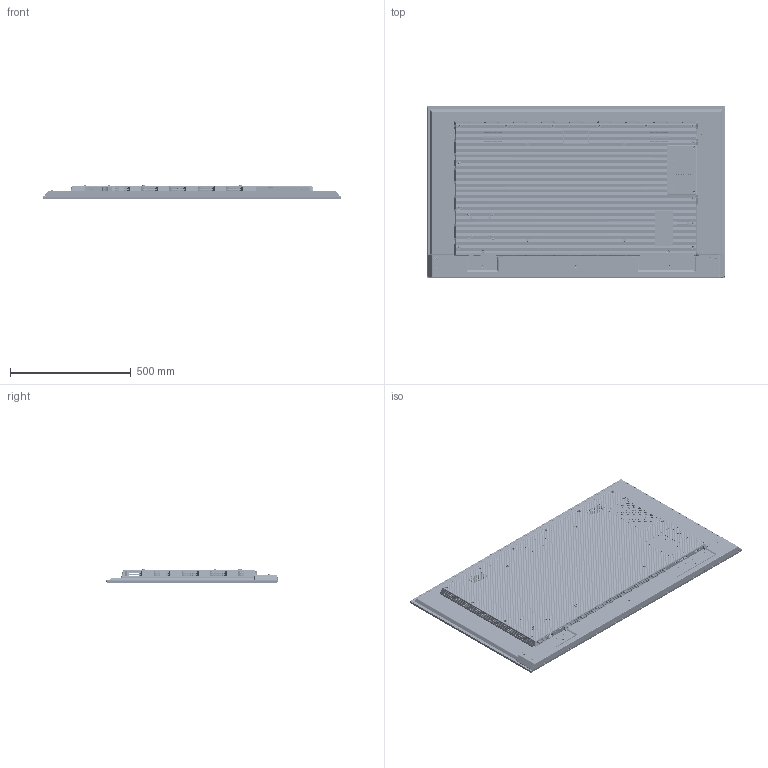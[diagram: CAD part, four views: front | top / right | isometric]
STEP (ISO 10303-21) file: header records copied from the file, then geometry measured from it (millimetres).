
FILE_DESCRIPTION(/* description */ (''),/* implementation_level */ '2;1');
FILE_NAME(/* name */ '00-55U_total_asm_75XL-1207.stp',/* time_stamp */ '2023-12-07T11:17:37+08:00',/* author */ (''),/* organization */ (''),/* preprocessor_version */ 'ST-DEVELOPER v16.7',/* originating_system */ 'SIEMENS PLM Software NX 12.0',/* authorisation */ '');
FILE_SCHEMA (('AUTOMOTIVE_DESIGN { 1 0 10303 214 3 1 1 1 }'));
Products named in the file (1): 5555_x_t
Bounding box: 1237.27 x 709.78 x 58.67 mm (x, y, z)
Volume: 3897880.9 mm3; surface area: 5569530 mm2
Topology: 55 solids, 64 shells, 36113 faces, 103896 edges, 67007 vertices
Faces by surface type: plane 23313, cylinder 6197, cone 2880, bspline 1507, torus 1283, extrusion 885, sphere 48
Full cylindrical faces by diameter (mm): 2.6 x23, 2.7 x23, 3.2 x1, 3.5 x8, 3.7 x8, 4 x23, 4.1 x22, 4.2 x1, 4.3 x4, 5 x23, 5.1 x8, 5.4 x4, 5.5 x1, 5.97 x2, 6 x10, 7 x2, 7.5 x1, 8 x8, 10 x2, 11.005 x8, 11.5 x2, 12 x2, 13.5 x4, 14.3 x11
Entity records: 1446112 total; most frequent: CARTESIAN_POINT 464372, ORIENTED_EDGE 206082, DIRECTION 172971, EDGE_CURVE 103041, VECTOR 72805, LINE 71920, VERTEX_POINT 66752, AXIS2_PLACEMENT_3D 50083
